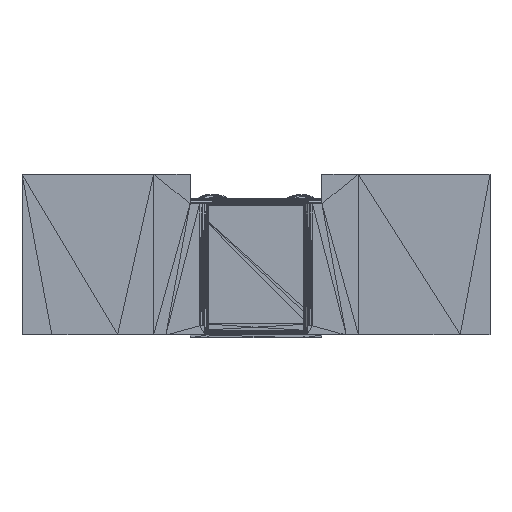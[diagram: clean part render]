
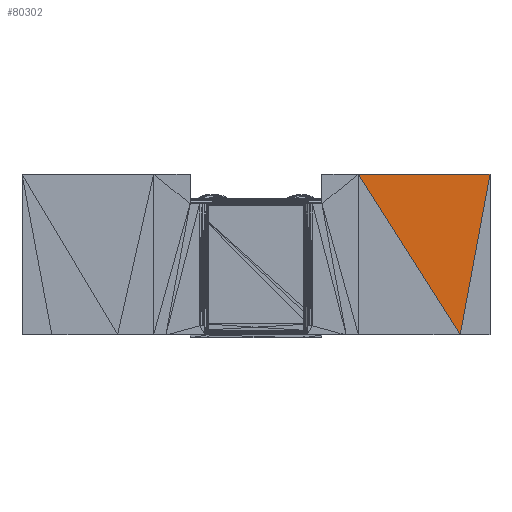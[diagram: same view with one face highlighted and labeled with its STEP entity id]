
A CAD part, left-side view. The second image highlights one B-rep face of the part: STEP entity #80302.
In plain terms, the highlighted planar face has unit normal (-1, 0, 0).
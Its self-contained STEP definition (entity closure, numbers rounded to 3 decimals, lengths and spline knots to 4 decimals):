
#2199=DIRECTION('',(0.0,-1.0,0.0));
#2200=VECTOR('',#2199,1000.0);
#48591=CARTESIAN_POINT('',(-11.05,-6.9817,0.02));
#48592=VERTEX_POINT('',#48591);
#49845=CARTESIAN_POINT('',(-11.05,-8.0,5.52));
#49846=VERTEX_POINT('',#49845);
#49847=CARTESIAN_POINT('',(-11.05,-3.5,5.52));
#49848=VERTEX_POINT('',#49847);
#77851=DIRECTION('',(0.0,0.182,-0.983));
#77852=VECTOR('',#77851,1000.0);
#77871=DIRECTION('',(0.0,-0.182,0.983));
#79786=LINE('',#49847,#2200);
#79787=EDGE_CURVE('',#49848,#49846,#79786,.T.);
#80206=DIRECTION('',(0.0,-0.535,-0.845));
#80207=VECTOR('',#80206,1000.0);
#80281=LINE('',#49845,#77852);
#80282=EDGE_CURVE('',#49846,#48592,#80281,.T.);
#80292=LINE('',#49847,#80207);
#80293=EDGE_CURVE('',#49848,#48592,#80292,.T.);
#80294=ORIENTED_EDGE('',*,*,#80282,.F.);
#80295=ORIENTED_EDGE('',*,*,#79787,.F.);
#80296=ORIENTED_EDGE('',*,*,#80293,.T.);
#80297=DIRECTION('',(-1.0,0.0,0.0));
#80298=AXIS2_PLACEMENT_3D('',#48591,#80297,#77871);
#80299=PLANE('',#80298);
#80300=EDGE_LOOP('',(#80294,#80295,#80296));
#80301=FACE_BOUND('',#80300,.T.);
#80302=ADVANCED_FACE('',(#80301),#80299,.T.);
